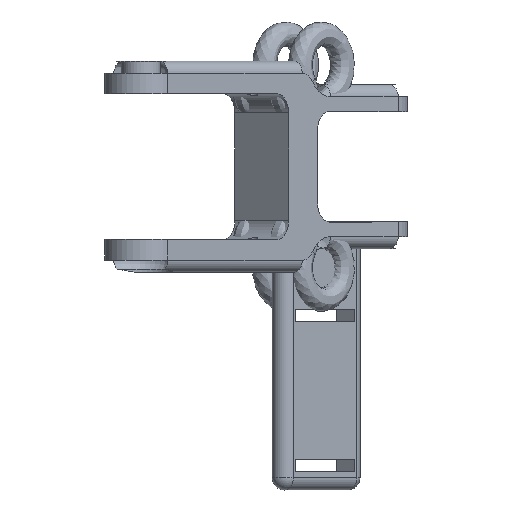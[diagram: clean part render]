
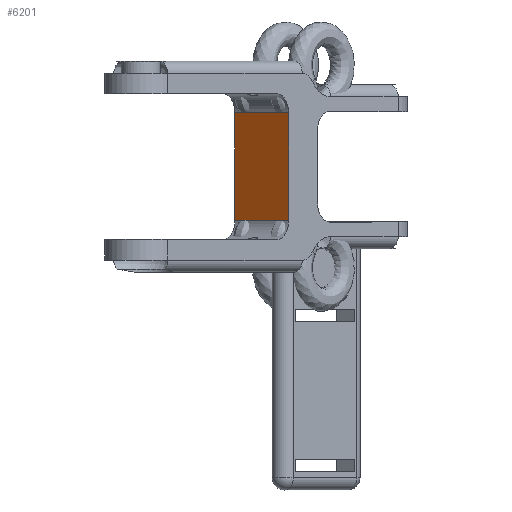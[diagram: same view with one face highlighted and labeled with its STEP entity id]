
A CAD part, front view. The second image highlights one B-rep face of the part: STEP entity #6201.
In plain terms, the highlighted planar face has unit normal (-0.669, -0.744, 0).
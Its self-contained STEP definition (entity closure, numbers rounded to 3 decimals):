
#603 = PLANE('',#604);
#604 = AXIS2_PLACEMENT_3D('',#605,#606,#607);
#605 = CARTESIAN_POINT('',(46.446,107.932,
    0.));
#606 = DIRECTION('',(0.744,-0.669,0.)
  );
#607 = DIRECTION('',(0.669,0.744,0.));
#990 = PLANE('',#991);
#991 = AXIS2_PLACEMENT_3D('',#992,#993,#994);
#992 = CARTESIAN_POINT('',(55.37,99.909,
    0.));
#993 = DIRECTION('',(-0.744,0.669,0.)
  );
#994 = DIRECTION('',(-0.669,-0.744,0.
    ));
#1273 = CYLINDRICAL_SURFACE('',#1274,3.2);
#1274 = AXIS2_PLACEMENT_3D('',#1275,#1276,#1277);
#1275 = CARTESIAN_POINT('',(26.155,85.361,
    -26.45));
#1276 = DIRECTION('',(-0.744,0.669,0.)
  );
#1277 = DIRECTION('',(-0.669,-0.744,
    0.));
#3176 = VERTEX_POINT('',#3177);
#3177 = CARTESIAN_POINT('',(28.295,87.741,
    -26.45));
#3203 = EDGE_CURVE('',#3176,#3204,#3206,.T.);
#3204 = VERTEX_POINT('',#3205);
#3205 = CARTESIAN_POINT('',(28.295,87.741,
    -8.55));
#3206 = SURFACE_CURVE('',#3207,(#3211,#3218),.PCURVE_S1.);
#3207 = LINE('',#3208,#3209);
#3208 = CARTESIAN_POINT('',(28.295,87.741,
    0.));
#3209 = VECTOR('',#3210,1.);
#3210 = DIRECTION('',(0.,0.,1.));
#3211 = PCURVE('',#603,#3212);
#3212 = DEFINITIONAL_REPRESENTATION('',(#3213),#3217);
#3213 = LINE('',#3214,#3215);
#3214 = CARTESIAN_POINT('',(-27.15,0.));
#3215 = VECTOR('',#3216,1.);
#3216 = DIRECTION('',(0.,1.));
#3217 = ( GEOMETRIC_REPRESENTATION_CONTEXT(2) 
PARAMETRIC_REPRESENTATION_CONTEXT() REPRESENTATION_CONTEXT('2D SPACE',''
  ) );
#3218 = PCURVE('',#3219,#3224);
#3219 = PLANE('',#3220);
#3220 = AXIS2_PLACEMENT_3D('',#3221,#3222,#3223);
#3221 = CARTESIAN_POINT('',(28.295,87.741,
    -5.45));
#3222 = DIRECTION('',(0.669,0.744,0.)
  );
#3223 = DIRECTION('',(-0.744,0.669,0.)
  );
#3224 = DEFINITIONAL_REPRESENTATION('',(#3225),#3229);
#3225 = LINE('',#3226,#3227);
#3226 = CARTESIAN_POINT('',(0.,5.45));
#3227 = VECTOR('',#3228,1.);
#3228 = DIRECTION('',(0.,1.));
#3229 = ( GEOMETRIC_REPRESENTATION_CONTEXT(2) 
PARAMETRIC_REPRESENTATION_CONTEXT() REPRESENTATION_CONTEXT('2D SPACE',''
  ) );
#3252 = CYLINDRICAL_SURFACE('',#3253,3.2);
#3253 = AXIS2_PLACEMENT_3D('',#3254,#3255,#3256);
#3254 = CARTESIAN_POINT('',(26.155,85.361,
    -8.55));
#3255 = DIRECTION('',(-0.744,0.669,0.)
  );
#3256 = DIRECTION('',(-0.669,-0.744,
    0.));
#4587 = VERTEX_POINT('',#4588);
#4588 = CARTESIAN_POINT('',(37.219,79.719,
    -8.55));
#4610 = EDGE_CURVE('',#4611,#4587,#4613,.T.);
#4611 = VERTEX_POINT('',#4612);
#4612 = CARTESIAN_POINT('',(37.219,79.719,
    -26.45));
#4613 = SURFACE_CURVE('',#4614,(#4618,#4625),.PCURVE_S1.);
#4614 = LINE('',#4615,#4616);
#4615 = CARTESIAN_POINT('',(37.219,79.719,
    -5.45));
#4616 = VECTOR('',#4617,1.);
#4617 = DIRECTION('',(0.,0.,1.));
#4618 = PCURVE('',#990,#4619);
#4619 = DEFINITIONAL_REPRESENTATION('',(#4620),#4624);
#4620 = LINE('',#4621,#4622);
#4621 = CARTESIAN_POINT('',(27.15,-5.45));
#4622 = VECTOR('',#4623,1.);
#4623 = DIRECTION('',(0.,1.));
#4624 = ( GEOMETRIC_REPRESENTATION_CONTEXT(2) 
PARAMETRIC_REPRESENTATION_CONTEXT() REPRESENTATION_CONTEXT('2D SPACE',''
  ) );
#4625 = PCURVE('',#3219,#4626);
#4626 = DEFINITIONAL_REPRESENTATION('',(#4627),#4631);
#4627 = LINE('',#4628,#4629);
#4628 = CARTESIAN_POINT('',(-12.,0.));
#4629 = VECTOR('',#4630,1.);
#4630 = DIRECTION('',(0.,1.));
#4631 = ( GEOMETRIC_REPRESENTATION_CONTEXT(2) 
PARAMETRIC_REPRESENTATION_CONTEXT() REPRESENTATION_CONTEXT('2D SPACE',''
  ) );
#5145 = EDGE_CURVE('',#4611,#3176,#5146,.T.);
#5146 = SURFACE_CURVE('',#5147,(#5151,#5158),.PCURVE_S1.);
#5147 = LINE('',#5148,#5149);
#5148 = CARTESIAN_POINT('',(28.295,87.741,
    -26.45));
#5149 = VECTOR('',#5150,1.);
#5150 = DIRECTION('',(-0.744,0.669,0.)
  );
#5151 = PCURVE('',#1273,#5152);
#5152 = DEFINITIONAL_REPRESENTATION('',(#5153),#5157);
#5153 = LINE('',#5154,#5155);
#5154 = CARTESIAN_POINT('',(3.142,0.));
#5155 = VECTOR('',#5156,1.);
#5156 = DIRECTION('',(0.,1.));
#5157 = ( GEOMETRIC_REPRESENTATION_CONTEXT(2) 
PARAMETRIC_REPRESENTATION_CONTEXT() REPRESENTATION_CONTEXT('2D SPACE',''
  ) );
#5158 = PCURVE('',#3219,#5159);
#5159 = DEFINITIONAL_REPRESENTATION('',(#5160),#5164);
#5160 = LINE('',#5161,#5162);
#5161 = CARTESIAN_POINT('',(0.,-21.));
#5162 = VECTOR('',#5163,1.);
#5163 = DIRECTION('',(1.,0.));
#5164 = ( GEOMETRIC_REPRESENTATION_CONTEXT(2) 
PARAMETRIC_REPRESENTATION_CONTEXT() REPRESENTATION_CONTEXT('2D SPACE',''
  ) );
#6201 = ADVANCED_FACE('',(#6202),#3219,.F.);
#6202 = FACE_BOUND('',#6203,.T.);
#6203 = EDGE_LOOP('',(#6204,#6225,#6226,#6227));
#6204 = ORIENTED_EDGE('',*,*,#6205,.T.);
#6205 = EDGE_CURVE('',#4587,#3204,#6206,.T.);
#6206 = SURFACE_CURVE('',#6207,(#6211,#6218),.PCURVE_S1.);
#6207 = LINE('',#6208,#6209);
#6208 = CARTESIAN_POINT('',(28.295,87.741,
    -8.55));
#6209 = VECTOR('',#6210,1.);
#6210 = DIRECTION('',(-0.744,0.669,0.)
  );
#6211 = PCURVE('',#3219,#6212);
#6212 = DEFINITIONAL_REPRESENTATION('',(#6213),#6217);
#6213 = LINE('',#6214,#6215);
#6214 = CARTESIAN_POINT('',(0.,-3.1));
#6215 = VECTOR('',#6216,1.);
#6216 = DIRECTION('',(1.,0.));
#6217 = ( GEOMETRIC_REPRESENTATION_CONTEXT(2) 
PARAMETRIC_REPRESENTATION_CONTEXT() REPRESENTATION_CONTEXT('2D SPACE',''
  ) );
#6218 = PCURVE('',#3252,#6219);
#6219 = DEFINITIONAL_REPRESENTATION('',(#6220),#6224);
#6220 = LINE('',#6221,#6222);
#6221 = CARTESIAN_POINT('',(3.142,0.));
#6222 = VECTOR('',#6223,1.);
#6223 = DIRECTION('',(0.,1.));
#6224 = ( GEOMETRIC_REPRESENTATION_CONTEXT(2) 
PARAMETRIC_REPRESENTATION_CONTEXT() REPRESENTATION_CONTEXT('2D SPACE',''
  ) );
#6225 = ORIENTED_EDGE('',*,*,#3203,.F.);
#6226 = ORIENTED_EDGE('',*,*,#5145,.F.);
#6227 = ORIENTED_EDGE('',*,*,#4610,.T.);
